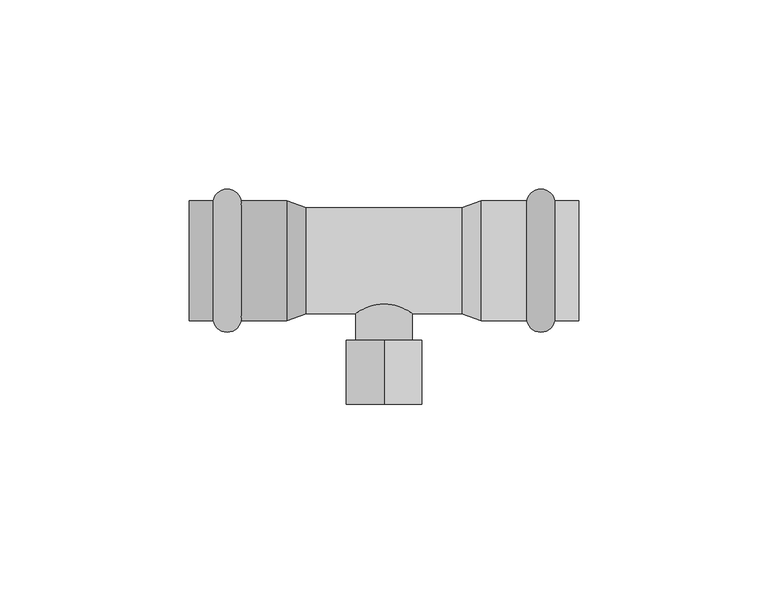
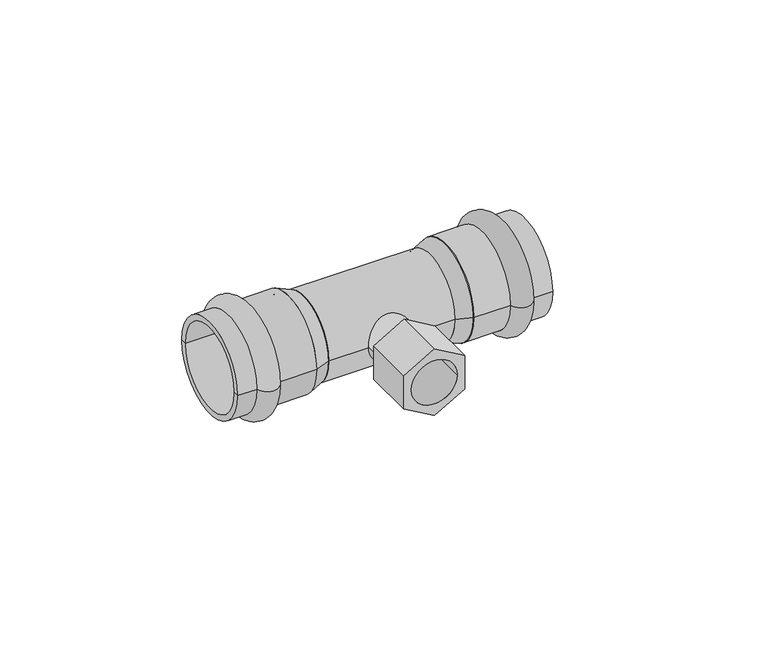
"""IFC4 building model written with IfcOpenShell, lengths in millimetres: pipe fitting geometry, VALTEC_VTi.932.I_Тройник с переходом на внутреннюю резьбу нержавеющая сталь : VTi.932.I."""

from ifc_helpers import new_model, si_unit, point, frame, origin, origin_2d, place, context, project, spatial, polyline, circle_curve, ellipse_curve, trimmed, segment, composite_curve, outline, extrude, source, transform, mapped, element, save
from ifc_brep_helpers import plane_surface, cylinder_surface, revolved_surface, advanced_brep


def pipe_fitting_4f7d4c09(model_context):
    return source(origin(), model_context, "Body", "SolidModel", [
        advanced_brep(
        [(45.1242346, 15.9, 0.0), (45.1242346, -15.9, 0.0), (37.7757654, -15.9, 0.0), (37.7757654, 15.9, 0.0), (51.5, 15.9, 0.0), (51.5, -15.9, 0.0), (51.5, 14.0, 0.0), (51.5, -14.0, 0.0), (25.75, 14.0, 0.0), (25.75, -14.0, 0.0), (25.75, 15.9, 0.0), (25.75, -15.9, 0.0)],
        [
            (0, 1, circle_curve(frame((45.1242346, 0.0, 0.0), z_axis=(-1.0, 0.0, 0.0), x_axis=(0.0, -1.0, 0.0)), 15.9)),
            (1, 2, circle_curve(frame((41.45, -15.15, 0.0), z_axis=(0.0, 0.0, -1.0), x_axis=(-1.0, 0.0, 0.0)), 3.75)),
            (2, 3, circle_curve(frame((37.7757654, 0.0, 0.0), z_axis=(1.0, 0.0, 0.0), x_axis=(0.0, -1.0, 0.0)), 15.9)),
            (3, 0, circle_curve(frame((41.45, 15.15, 0.0), z_axis=(0.0, 0.0, -1.0), x_axis=(-1.0, 0.0, 0.0)), 3.75)),
            (1, 0, circle_curve(frame((45.1242346, 0.0, 0.0), z_axis=(-1.0, 0.0, 0.0), x_axis=(0.0, -1.0, 0.0)), 15.9)),
            (3, 2, circle_curve(frame((37.7757654, 0.0, 0.0), z_axis=(1.0, 0.0, 0.0), x_axis=(0.0, -1.0, 0.0)), 15.9)),
            (4, 5, circle_curve(frame((51.5, 0.0, 0.0), z_axis=(-1.0, 0.0, 0.0), x_axis=(0.0, -1.0, 0.0)), 15.9)),
            (5, 1),
            (0, 4),
            (5, 4, circle_curve(frame((51.5, 0.0, 0.0), z_axis=(-1.0, 0.0, 0.0), x_axis=(0.0, -1.0, 0.0)), 15.9)),
            (6, 7, circle_curve(frame((51.5, 0.0, 0.0), z_axis=(-1.0, 0.0, 0.0), x_axis=(0.0, -1.0, 0.0)), 14.0)),
            (7, 5),
            (4, 6),
            (7, 6, circle_curve(frame((51.5, 0.0, 0.0), z_axis=(-1.0, 0.0, 0.0), x_axis=(0.0, -1.0, 0.0)), 14.0)),
            (8, 9, circle_curve(frame((25.75, 0.0, 0.0), z_axis=(-1.0, 0.0, 0.0), x_axis=(0.0, -1.0, 0.0)), 14.0)),
            (9, 7),
            (6, 8),
            (9, 8, circle_curve(frame((25.75, 0.0, 0.0), z_axis=(-1.0, 0.0, 0.0), x_axis=(0.0, -1.0, 0.0)), 14.0)),
            (10, 11, circle_curve(frame((25.75, 0.0, 0.0), z_axis=(-1.0, 0.0, 0.0), x_axis=(0.0, -1.0, 0.0)), 15.9)),
            (11, 9),
            (8, 10),
            (11, 10, circle_curve(frame((25.75, 0.0, 0.0), z_axis=(-1.0, 0.0, 0.0), x_axis=(0.0, -1.0, 0.0)), 15.9)),
            (2, 11),
            (10, 3),
        ],
        [
            revolved_surface(trimmed(ellipse_curve(frame((41.45, -15.15, 0.0), z_axis=(0.0, 0.0, 1.0), x_axis=(-1.0, 0.0, 0.0)), 3.75, 3.75), [point((37.7757654, -15.9, 0.0))], [point((45.1242346, -15.9, 0.0))], True, "CARTESIAN"), (55.0364426, 0.0, 0.0), (1.0, 0.0, 0.0)),
            cylinder_surface(frame((55.0364426, 0.0, 0.0), z_axis=(1.0, 0.0, 0.0), x_axis=(0.0, -1.0, 0.0)), 15.9),
            plane_surface(frame((51.5, 0.0, 0.0), z_axis=(1.0, 0.0, 0.0), x_axis=(0.0, -1.0, 0.0))),
            revolved_surface(polyline([(51.5, -14.0, 0.0), (25.75, -14.0, 0.0)]), (55.0364426, 0.0, 0.0), (1.0, 0.0, 0.0)),
            plane_surface(frame((25.75, 0.0, 0.0), z_axis=(-1.0, 0.0, 0.0), x_axis=(0.0, -1.0, 0.0))),
        ],
        [
            (0, [[1, 2, 3, 4]]),
            (0, [[5, -4, 6, -2]]),
            (1, [[7, 8, -1, 9]]),
            (1, [[10, -9, -5, -8]]),
            (2, [[11, 12, -7, 13]]),
            (2, [[14, -13, -10, -12]]),
            (3, [[15, 16, -11, 17]]),
            (3, [[18, -17, -14, -16]]),
            (4, [[19, 20, -15, 21]]),
            (4, [[22, -21, -18, -20]]),
            (1, [[-3, 23, -19, 24]]),
            (1, [[-6, -24, -22, -23]]),
        ],
    ),
        advanced_brep(
        [(-45.1242346, -15.9, 0.0), (-45.1242346, 15.9, 0.0), (-37.7757654, 15.9, 0.0), (-37.7757654, -15.9, 0.0), (-51.5, -15.9, 0.0), (-51.5, 15.9, 0.0), (-51.5, -14.0, 0.0), (-51.5, 14.0, 0.0), (-25.75, -14.0, 0.0), (-25.75, 14.0, 0.0), (-25.75, -15.9, 0.0), (-25.75, 15.9, 0.0)],
        [
            (0, 1, circle_curve(frame((-45.1242346, 0.0, 0.0), z_axis=(1.0, 0.0, 0.0), x_axis=(0.0, 1.0, 0.0)), 15.9)),
            (1, 2, circle_curve(frame((-41.45, 15.15, 0.0), z_axis=(0.0, 0.0, -1.0), x_axis=(1.0, 0.0, 0.0)), 3.75)),
            (2, 3, circle_curve(frame((-37.7757654, 0.0, 0.0), z_axis=(-1.0, 0.0, 0.0), x_axis=(0.0, 1.0, 0.0)), 15.9)),
            (3, 0, circle_curve(frame((-41.45, -15.15, 0.0), z_axis=(0.0, 0.0, -1.0), x_axis=(1.0, 0.0, 0.0)), 3.75)),
            (1, 0, circle_curve(frame((-45.1242346, 0.0, 0.0), z_axis=(1.0, 0.0, 0.0), x_axis=(0.0, 1.0, 0.0)), 15.9)),
            (3, 2, circle_curve(frame((-37.7757654, 0.0, 0.0), z_axis=(-1.0, 0.0, 0.0), x_axis=(0.0, 1.0, 0.0)), 15.9)),
            (4, 5, circle_curve(frame((-51.5, 0.0, 0.0), z_axis=(1.0, 0.0, 0.0), x_axis=(0.0, 1.0, 0.0)), 15.9)),
            (5, 1),
            (0, 4),
            (5, 4, circle_curve(frame((-51.5, 0.0, 0.0), z_axis=(1.0, 0.0, 0.0), x_axis=(0.0, 1.0, 0.0)), 15.9)),
            (6, 7, circle_curve(frame((-51.5, 0.0, 0.0), z_axis=(1.0, 0.0, 0.0), x_axis=(0.0, 1.0, 0.0)), 14.0)),
            (7, 5),
            (4, 6),
            (7, 6, circle_curve(frame((-51.5, 0.0, 0.0), z_axis=(1.0, 0.0, 0.0), x_axis=(0.0, 1.0, 0.0)), 14.0)),
            (8, 9, circle_curve(frame((-25.75, 0.0, 0.0), z_axis=(1.0, 0.0, 0.0), x_axis=(0.0, 1.0, 0.0)), 14.0)),
            (9, 7),
            (6, 8),
            (9, 8, circle_curve(frame((-25.75, 0.0, 0.0), z_axis=(1.0, 0.0, 0.0), x_axis=(0.0, 1.0, 0.0)), 14.0)),
            (10, 11, circle_curve(frame((-25.75, 0.0, 0.0), z_axis=(1.0, 0.0, 0.0), x_axis=(0.0, 1.0, 0.0)), 15.9)),
            (11, 9),
            (8, 10),
            (11, 10, circle_curve(frame((-25.75, 0.0, 0.0), z_axis=(1.0, 0.0, 0.0), x_axis=(0.0, 1.0, 0.0)), 15.9)),
            (2, 11),
            (10, 3),
        ],
        [
            revolved_surface(trimmed(ellipse_curve(frame((-41.45, 15.15, 0.0), z_axis=(0.0, 0.0, 1.0), x_axis=(1.0, 0.0, 0.0)), 3.75, 3.75), [point((-37.7757654, 15.9, 0.0))], [point((-45.1242346, 15.9, 0.0))], True, "CARTESIAN"), (-55.0364426, 0.0, 0.0), (-1.0, 0.0, 0.0)),
            cylinder_surface(frame((-55.0364426, 0.0, 0.0), z_axis=(-1.0, 0.0, 0.0), x_axis=(0.0, 1.0, 0.0)), 15.9),
            plane_surface(frame((-51.5, 0.0, 0.0), z_axis=(-1.0, 0.0, 0.0), x_axis=(0.0, 1.0, 0.0))),
            revolved_surface(polyline([(-51.5, 14.0, 0.0), (-25.75, 14.0, 0.0)]), (-55.0364426, 0.0, 0.0), (-1.0, 0.0, 0.0)),
            plane_surface(frame((-25.75, 0.0, 0.0), z_axis=(1.0, 0.0, 0.0), x_axis=(0.0, 1.0, 0.0))),
        ],
        [
            (0, [[1, 2, 3, 4]]),
            (0, [[5, -4, 6, -2]]),
            (1, [[7, 8, -1, 9]]),
            (1, [[10, -9, -5, -8]]),
            (2, [[11, 12, -7, 13]]),
            (2, [[14, -13, -10, -12]]),
            (3, [[15, 16, -11, 17]]),
            (3, [[18, -17, -14, -16]]),
            (4, [[19, 20, -15, 21]]),
            (4, [[22, -21, -18, -20]]),
            (1, [[-3, 23, -19, 24]]),
            (1, [[-6, -24, -22, -23]]),
        ],
    ),
        extrude(outline(polyline([(11.5470054, 0.0), (5.7735027, -10.0), (-5.7735027, -10.0), (-11.5470054, 0.0), (-5.7735027, 10.0), (5.7735027, 10.0), (11.5470054, 0.0)]), holes=[composite_curve([segment(trimmed(circle_curve(origin_2d(), 7.5), [point((0.0, -7.5))], [point((0.0, 7.5))], True, "CARTESIAN"), True, "CONTINUOUS"), segment(trimmed(circle_curve(origin_2d(), 7.5), [point((0.0, 7.5))], [point((0.0, -7.5))], True, "CARTESIAN"), True, "CONTINUOUS")], self_intersect=False)]), frame((0.0, -38.0, 0.0), z_axis=(0.0, 1.0, 0.0), x_axis=(0.0, 0.0, 1.0)), (0.0, 0.0, 1.0), 17.0),
        extrude(outline(composite_curve([segment(trimmed(circle_curve(origin_2d(), 7.5), [point((0.0, -7.5))], [point((0.0, 7.5))], False, "CARTESIAN"), True, "CONTINUOUS"), segment(trimmed(circle_curve(origin_2d(), 7.5), [point((0.0, 7.5))], [point((0.0, -7.5))], False, "CARTESIAN"), True, "CONTINUOUS")], self_intersect=False)), frame((0.0, -21.0, 0.0), z_axis=(0.0, 1.0, 0.0), x_axis=(0.0, 0.0, 1.0)), (0.0, 0.0, 1.0), 21.0),
        extrude(outline(composite_curve([segment(trimmed(circle_curve(origin_2d(), 14.0), [point((-14.0, 0.0))], [point((14.0, 0.0))], False, "CARTESIAN"), True, "CONTINUOUS"), segment(trimmed(circle_curve(origin_2d(), 14.0), [point((14.0, 0.0))], [point((-14.0, 0.0))], False, "CARTESIAN"), True, "CONTINUOUS")], self_intersect=False)), frame((-20.6, 0.0, 0.0), z_axis=(1.0, 0.0, 0.0), x_axis=(0.0, 1.0, 0.0)), (0.0, 0.0, 1.0), 41.2),
        advanced_brep(
        [(25.75, -15.9, 0.0), (25.75, 15.9, 0.0), (20.6, -14.0, 0.0), (20.6, 14.0, 0.0)],
        [
            (0, 1, circle_curve(frame((25.75, 0.0, 0.0), z_axis=(1.0, 0.0, 0.0), x_axis=(0.0, -1.0, 0.0)), 15.9)),
            (1, 0, circle_curve(frame((25.75, 0.0, 0.0), z_axis=(1.0, 0.0, 0.0), x_axis=(0.0, 1.0, 0.0)), 15.9)),
            (2, 3, circle_curve(frame((20.6, 0.0, 0.0), z_axis=(-1.0, 0.0, 0.0), x_axis=(0.0, 1.0, 0.0)), 14.0)),
            (3, 2, circle_curve(frame((20.6, 0.0, 0.0), z_axis=(-1.0, 0.0, 0.0), x_axis=(0.0, -1.0, 0.0)), 14.0)),
            (3, 1),
            (0, 2),
        ],
        [
            plane_surface(frame((25.75, 0.0, 0.0), z_axis=(1.0, 0.0, 0.0), x_axis=(0.0, 0.0, 1.0))),
            plane_surface(frame((20.6, 0.0, 0.0), z_axis=(-1.0, 0.0, 0.0), x_axis=(0.0, 0.0, 1.0))),
            revolved_surface(polyline([(20.6, 13.999999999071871, 0.0), (25.75, 15.9, 0.0)]), (-17.3473684, 0.0, 0.0), (1.0, 0.0, 0.0)),
            revolved_surface(polyline([(20.6, -13.999999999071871, 0.0), (25.75, -15.9, 0.0)]), (-17.3473684, 0.0, 0.0), (1.0, 0.0, 0.0)),
        ],
        [
            (0, [[1, 2]]),
            (1, [[3, 4]]),
            (2, [[-4, 5, -1, 6]]),
            (3, [[-3, -6, -2, -5]]),
        ],
    ),
        advanced_brep(
        [(-25.75, -15.9, 0.0), (-25.75, 15.9, 0.0), (-20.6, -14.0, 0.0), (-20.6, 14.0, 0.0)],
        [
            (0, 1, circle_curve(frame((-25.75, 0.0, 0.0), z_axis=(-1.0, 0.0, 0.0), x_axis=(0.0, -1.0, 0.0)), 15.9)),
            (1, 0, circle_curve(frame((-25.75, 0.0, 0.0), z_axis=(-1.0, 0.0, 0.0), x_axis=(0.0, 1.0, 0.0)), 15.9)),
            (2, 3, circle_curve(frame((-20.6, 0.0, 0.0), z_axis=(1.0, 0.0, 0.0), x_axis=(0.0, 1.0, 0.0)), 14.0)),
            (3, 2, circle_curve(frame((-20.6, 0.0, 0.0), z_axis=(1.0, 0.0, 0.0), x_axis=(0.0, -1.0, 0.0)), 14.0)),
            (2, 0),
            (1, 3),
        ],
        [
            plane_surface(frame((-25.75, 0.0, 0.0), z_axis=(-1.0, 0.0, 0.0), x_axis=(0.0, 0.0, -1.0))),
            plane_surface(frame((-20.6, 0.0, 0.0), z_axis=(1.0, 0.0, 0.0), x_axis=(0.0, 0.0, -1.0))),
            revolved_surface(polyline([(-20.6, -13.999999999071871, 0.0), (-25.75, -15.9, 0.0)]), (17.3473684, 0.0, 0.0), (-1.0, 0.0, 0.0)),
            revolved_surface(polyline([(-20.6, 13.999999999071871, 0.0), (-25.75, 15.9, 0.0)]), (17.3473684, 0.0, 0.0), (-1.0, 0.0, 0.0)),
        ],
        [
            (0, [[1, 2]]),
            (1, [[3, 4]]),
            (2, [[-3, 5, -2, 6]]),
            (3, [[-4, -6, -1, -5]]),
        ],
    ),
    ])


if __name__ == "__main__":
    model = new_model("IFC4")
    model_context = context("Model", 3, world=origin())
    ifc_project = project(units=[si_unit("LENGTHUNIT", "METRE", prefix="MILLI")], contexts=[model_context])
    site = spatial("IfcSite", under=ifc_project)
    building = spatial("IfcBuilding", under=site)
    placement = place(None, origin())
    pipe_fitting_shape = pipe_fitting_4f7d4c09(model_context)
    element("IfcPipeFitting", 1, ObjectType="VALTEC_VTi.932.I_Тройник с переходом на внутреннюю резьбу нержавеющая сталь : VTi.932.I", at=placement, inside=building, context=model_context, shape_type="MappedRepresentation", body=[
        mapped(pipe_fitting_shape, transform((0.0, 0.0, 0.0), x_axis=(1.0, 0.0, 0.0), y_axis=(0.0, 1.0, 0.0), z_axis=(0.0, 0.0, 1.0))),
    ])
    save(model, "model.ifc")
